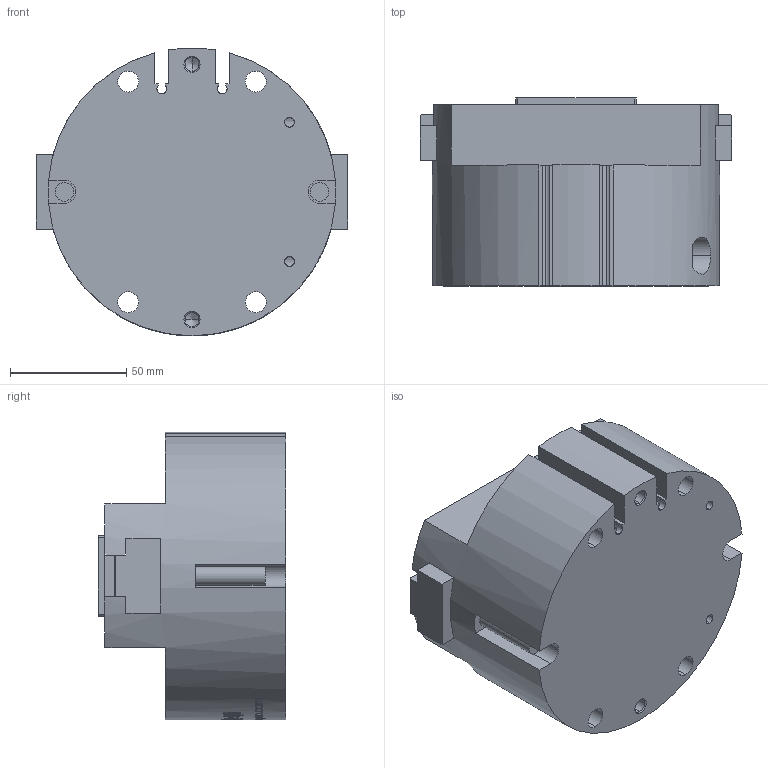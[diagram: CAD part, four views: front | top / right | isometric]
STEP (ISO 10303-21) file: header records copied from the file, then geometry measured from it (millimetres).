
FILE_DESCRIPTION (( 'STEP AP203' ), '1' );
FILE_NAME ('OPM-125-C2-MC&MA-原始檔-組合-W106.04.18.STEP', '2017-04-18T07:39:10', ( 'DanyaoCAD' ), ( '' ), 'SwSTEP 2.0', 'SolidWorks 2016', '' );
FILE_SCHEMA (( 'CONFIG_CONTROL_DESIGN' ));
Products named in the file (3): Corpo; Griffa; OPM-125-C2-MC&MA-原始檔-組合-W106.04.18
Assembly tree (3 placements, depth 2):
  OPM-125-C2-MC&MA-原始檔-組合-W106.04.18
    Corpo
    Griffa  x2
Bounding box: 134 x 81 x 123.91 mm (x, y, z)
Volume: 775747.5 mm3; surface area: 93640.3 mm2
Topology: 3 solids, 3 shells, 954 faces, 2672 edges, 1768 vertices
Faces by surface type: bspline 665, plane 173, cylinder 96, cone 20
Entity records: 98271 total; most frequent: CARTESIAN_POINT 80083, ORIENTED_EDGE 5160, EDGE_CURVE 2580, B_SPLINE_CURVE_WITH_KNOTS 2041, VERTEX_POINT 1716, DIRECTION 1224, EDGE_LOOP 988, FACE_OUTER_BOUND 921
